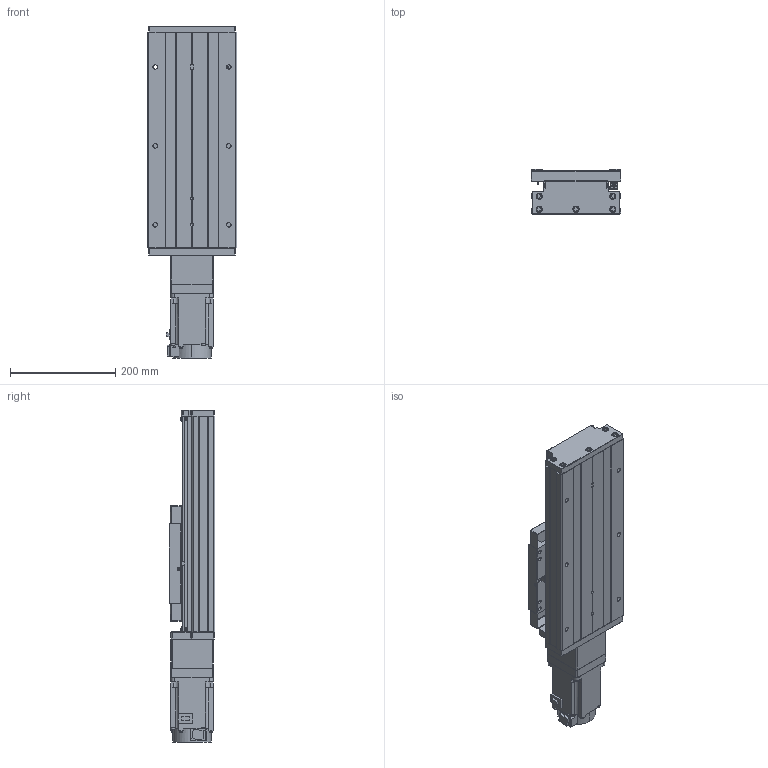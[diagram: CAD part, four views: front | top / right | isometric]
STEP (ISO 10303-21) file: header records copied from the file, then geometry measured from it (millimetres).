
FILE_DESCRIPTION (( 'STEP AP203' ), '1' );
FILE_NAME ('GTH17-150-BC-M75-C4.step', '2023-06-30T11:20:41', ( '微软用户' ), ( '微软中国' ), 'SwSTEP 2.0', 'SolidWorks 2020', '' );
FILE_SCHEMA (( 'CONFIG_CONTROL_DESIGN' ));
Length unit declared in the file: millimetre
Products named in the file (20): GTH17-027-1; GB1155-6X6; GTH17-031; HG-KN73J-S100; CTHA60-017; GBT 70.2-M3¡Á5_M3¡Á6; GTH17-150-BC-M75-C4; EE_SX911P_R; す晦芛蹟隊 M3℅5; GTH17-001_150; CTHA60-016; GBT 70.3-M3℅8; GTH17-002_GTH17-002; GBT 70.1-M3℅5; GTH17-006-2_M75; GTH17-004; GBT77-2000 M3×3; GTH17-013; GTH17-005; GBT 70.1-M6¡Á20_M6¡Á20
Assembly tree (57 placements, depth 2):
  GTH17-150-BC-M75-C4
    GTH17-001_150
    GTH17-002_GTH17-002
    GTH17-004
    GTH17-005
    GB1155-6X6  x2
    CTHA60-017  x3
    EE_SX911P_R  x3
    CTHA60-016  x2
    GBT 70.1-M3℅5  x6
    GBT77-2000 M3×3  x6
    GBT 70.1-M6¡Á20_M6¡Á20  x10
    GTH17-031
    GBT 70.2-M3¡Á5_M3¡Á6  x8
    す晦芛蹟隊 M3℅5  x6
    GBT 70.3-M3℅8  x2
    GTH17-006-2_M75
    GTH17-013
    GTH17-027-1
    HG-KN73J-S100
Bounding box: 171 x 87 x 631.2 mm (x, y, z)
Volume: 4855228.3 mm3; surface area: 712804.2 mm2
Topology: 60 solids, 60 shells, 2384 faces, 5701 edges, 3531 vertices
Faces by surface type: plane 1299, cylinder 638, cone 287, torus 120, sphere 20, bspline 20
Entity records: 44221 total; most frequent: CARTESIAN_POINT 10277, DIRECTION 6357, ORIENTED_EDGE 6318, EDGE_CURVE 3159, AXIS2_PLACEMENT_3D 2145, LINE 2067, VECTOR 2067, VERTEX_POINT 1999
